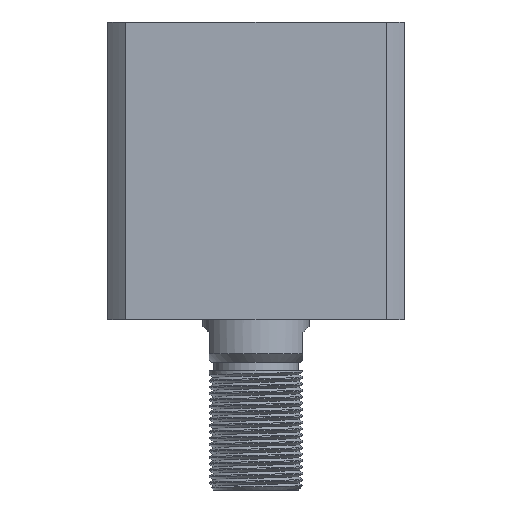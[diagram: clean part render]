
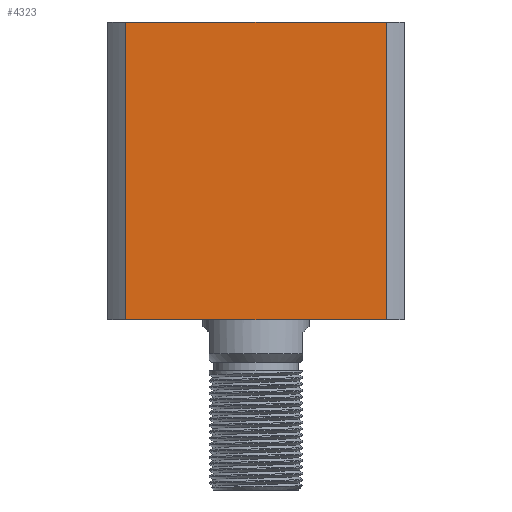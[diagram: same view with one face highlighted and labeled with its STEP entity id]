
A CAD part, left-side view. The second image highlights one B-rep face of the part: STEP entity #4323.
In plain terms, the highlighted planar face has unit normal (-1, 0, 0) as drawn and (0, 1, 0) by its records, which use the part's own axes.
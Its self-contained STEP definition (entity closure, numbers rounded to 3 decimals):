
#440 = EDGE_LOOP ( 'NONE', ( #2714, #10599, #506, #9051 ) ) ;
#506 = ORIENTED_EDGE ( 'NONE', *, *, #3436, .F. ) ;
#546 = CARTESIAN_POINT ( 'NONE',  ( 30.615, 35., 0. ) ) ;
#1204 = DIRECTION ( 'NONE',  ( 0., -1., 0. ) ) ;
#2069 = DIRECTION ( 'NONE',  ( -1., 0., 0. ) ) ;
#2089 = CARTESIAN_POINT ( 'NONE',  ( 30.615, 35., 300. ) ) ;
#2624 = CARTESIAN_POINT ( 'NONE',  ( -30.615, 35., 0. ) ) ;
#2714 = ORIENTED_EDGE ( 'NONE', *, *, #13122, .F. ) ;
#2913 = VERTEX_POINT ( 'NONE', #8782 ) ;
#3238 = CARTESIAN_POINT ( 'NONE',  ( -35., 35., 70. ) ) ;
#3267 = LINE ( 'NONE', #7222, #11327 ) ;
#3436 = EDGE_CURVE ( 'NONE', #12877, #2913, #5714, .T. ) ;
#4102 = LINE ( 'NONE', #5188, #12145 ) ;
#4323 = ADVANCED_FACE ( 'NONE', ( #6504 ), #7521, .F. ) ;
#5035 = VERTEX_POINT ( 'NONE', #11677 ) ;
#5188 = CARTESIAN_POINT ( 'NONE',  ( -35., 35., 70. ) ) ;
#5200 = CARTESIAN_POINT ( 'NONE',  ( -35., 35., 0. ) ) ;
#5714 = LINE ( 'NONE', #2089, #8497 ) ;
#6301 = LINE ( 'NONE', #5200, #11547 ) ;
#6504 = FACE_OUTER_BOUND ( 'NONE', #440, .T. ) ;
#7184 = VERTEX_POINT ( 'NONE', #2624 ) ;
#7222 = CARTESIAN_POINT ( 'NONE',  ( -30.615, 35., 300. ) ) ;
#7521 = PLANE ( 'NONE',  #8941 ) ;
#8276 = DIRECTION ( 'NONE',  ( 0., 0., -1. ) ) ;
#8497 = VECTOR ( 'NONE', #9446, 1000. ) ;
#8500 = EDGE_CURVE ( 'NONE', #12877, #7184, #6301, .T. ) ;
#8571 = DIRECTION ( 'NONE',  ( 0., 0., -1. ) ) ;
#8782 = CARTESIAN_POINT ( 'NONE',  ( 30.615, 35., 70. ) ) ;
#8941 = AXIS2_PLACEMENT_3D ( 'NONE', #3238, #1204, #8571 ) ;
#9051 = ORIENTED_EDGE ( 'NONE', *, *, #8500, .T. ) ;
#9446 = DIRECTION ( 'NONE',  ( 0., 0., 1. ) ) ;
#10599 = ORIENTED_EDGE ( 'NONE', *, *, #12401, .F. ) ;
#11327 = VECTOR ( 'NONE', #8276, 1000. ) ;
#11547 = VECTOR ( 'NONE', #12541, 1000. ) ;
#11677 = CARTESIAN_POINT ( 'NONE',  ( -30.615, 35., 70. ) ) ;
#12145 = VECTOR ( 'NONE', #2069, 1000. ) ;
#12401 = EDGE_CURVE ( 'NONE', #2913, #5035, #4102, .T. ) ;
#12541 = DIRECTION ( 'NONE',  ( -1., 0., 0. ) ) ;
#12877 = VERTEX_POINT ( 'NONE', #546 ) ;
#13122 = EDGE_CURVE ( 'NONE', #5035, #7184, #3267, .T. ) ;
